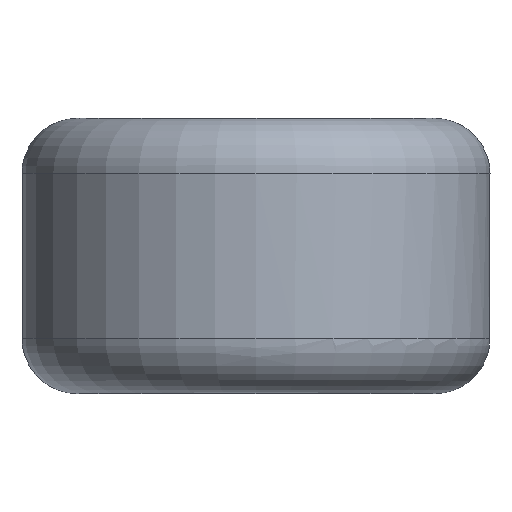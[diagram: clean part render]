
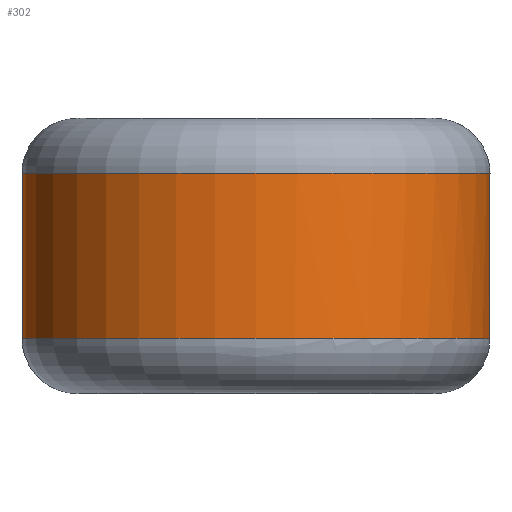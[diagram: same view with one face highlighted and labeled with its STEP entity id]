
A CAD part, top view. The second image highlights one B-rep face of the part: STEP entity #302.
In plain terms, the highlighted cylindrical face has radius 4.25 mm (diameter 8.5 mm), a full revolution.
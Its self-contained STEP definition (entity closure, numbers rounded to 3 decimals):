
#24=B_SPLINE_CURVE_WITH_KNOTS('',3,(#890,#891,#892,#893,#894,#895,#896,
#897,#898,#899),.UNSPECIFIED.,.F.,.F.,(4,1,1,1,1,1,1,4),(-0.224,
-0.192,-0.16,-0.128,-0.096,
-0.048,-0.032,0.),.UNSPECIFIED.);
#26=B_SPLINE_CURVE_WITH_KNOTS('',3,(#961,#962,#963,#964,#965,#966,#967,
#968,#969,#970),.UNSPECIFIED.,.F.,.F.,(4,1,1,1,1,1,1,4),(-0.224,
-0.192,-0.16,-0.128,-0.096,
-0.048,-0.032,0.),.UNSPECIFIED.);
#72=FACE_OUTER_BOUND('',#92,.T.);
#92=EDGE_LOOP('',(#241,#242,#243,#244,#245,#246,#247,#248,#249,#250));
#105=LINE('',#955,#108);
#108=VECTOR('',#407,4.25);
#120=CIRCLE('',#347,4.25);
#121=CIRCLE('',#348,4.25);
#122=CIRCLE('',#349,4.25);
#123=CIRCLE('',#351,4.25);
#124=CIRCLE('',#352,4.25);
#125=CIRCLE('',#353,4.25);
#143=VERTEX_POINT('',#886);
#144=VERTEX_POINT('',#888);
#147=VERTEX_POINT('',#947);
#148=VERTEX_POINT('',#950);
#149=VERTEX_POINT('',#954);
#150=VERTEX_POINT('',#956);
#151=VERTEX_POINT('',#958);
#152=VERTEX_POINT('',#960);
#176=EDGE_CURVE('',#143,#144,#24,.T.);
#181=EDGE_CURVE('',#144,#147,#120,.T.);
#182=EDGE_CURVE('',#148,#143,#121,.T.);
#183=EDGE_CURVE('',#147,#148,#122,.T.);
#184=EDGE_CURVE('',#148,#149,#105,.T.);
#185=EDGE_CURVE('',#149,#150,#123,.T.);
#186=EDGE_CURVE('',#150,#151,#124,.T.);
#187=EDGE_CURVE('',#151,#152,#26,.T.);
#188=EDGE_CURVE('',#152,#149,#125,.T.);
#241=ORIENTED_EDGE('',*,*,#176,.T.);
#242=ORIENTED_EDGE('',*,*,#181,.T.);
#243=ORIENTED_EDGE('',*,*,#183,.T.);
#244=ORIENTED_EDGE('',*,*,#184,.T.);
#245=ORIENTED_EDGE('',*,*,#185,.T.);
#246=ORIENTED_EDGE('',*,*,#186,.T.);
#247=ORIENTED_EDGE('',*,*,#187,.T.);
#248=ORIENTED_EDGE('',*,*,#188,.T.);
#249=ORIENTED_EDGE('',*,*,#184,.F.);
#250=ORIENTED_EDGE('',*,*,#182,.T.);
#292=CYLINDRICAL_SURFACE('',#350,4.25);
#302=ADVANCED_FACE('',(#72),#292,.T.);
#347=AXIS2_PLACEMENT_3D('',#949,#399,#400);
#348=AXIS2_PLACEMENT_3D('',#951,#401,#402);
#349=AXIS2_PLACEMENT_3D('',#952,#403,#404);
#350=AXIS2_PLACEMENT_3D('',#953,#405,#406);
#351=AXIS2_PLACEMENT_3D('',#957,#408,#409);
#352=AXIS2_PLACEMENT_3D('',#959,#410,#411);
#353=AXIS2_PLACEMENT_3D('',#971,#412,#413);
#399=DIRECTION('center_axis',(0.,-1.,0.));
#400=DIRECTION('ref_axis',(-1.,0.,0.));
#401=DIRECTION('center_axis',(0.,-1.,0.));
#402=DIRECTION('ref_axis',(-1.,0.,0.));
#403=DIRECTION('center_axis',(0.,-1.,0.));
#404=DIRECTION('ref_axis',(-1.,0.,0.));
#405=DIRECTION('center_axis',(0.,-1.,0.));
#406=DIRECTION('ref_axis',(1.,0.,0.));
#407=DIRECTION('',(0.,-1.,0.));
#408=DIRECTION('center_axis',(0.,1.,0.));
#409=DIRECTION('ref_axis',(-1.,0.,0.));
#410=DIRECTION('center_axis',(0.,1.,0.));
#411=DIRECTION('ref_axis',(-1.,0.,0.));
#412=DIRECTION('center_axis',(0.,1.,0.));
#413=DIRECTION('ref_axis',(-1.,0.,0.));
#886=CARTESIAN_POINT('',(-3.127,1.5,-2.879));
#888=CARTESIAN_POINT('',(-2.356,1.5,-3.537));
#890=CARTESIAN_POINT('Ctrl Pts',(-3.127,1.5,-2.879));
#891=CARTESIAN_POINT('Ctrl Pts',(-3.155,1.402,-2.848));
#892=CARTESIAN_POINT('Ctrl Pts',(-3.172,1.181,-2.828));
#893=CARTESIAN_POINT('Ctrl Pts',(-3.08,0.879,-2.931));
#894=CARTESIAN_POINT('Ctrl Pts',(-2.886,0.699,-3.125));
#895=CARTESIAN_POINT('Ctrl Pts',(-2.596,0.699,-3.374));
#896=CARTESIAN_POINT('Ctrl Pts',(-2.382,0.927,-3.52));
#897=CARTESIAN_POINT('Ctrl Pts',(-2.304,1.237,-3.571));
#898=CARTESIAN_POINT('Ctrl Pts',(-2.321,1.402,-3.56));
#899=CARTESIAN_POINT('Ctrl Pts',(-2.356,1.5,-3.537));
#947=CARTESIAN_POINT('',(0.,1.5,-4.25));
#949=CARTESIAN_POINT('Origin',(0.,1.5,0.));
#950=CARTESIAN_POINT('',(-4.25,1.5,0.));
#951=CARTESIAN_POINT('Origin',(0.,1.5,0.));
#952=CARTESIAN_POINT('Origin',(0.,1.5,0.));
#953=CARTESIAN_POINT('Origin',(0.,0.,0.));
#954=CARTESIAN_POINT('',(-4.25,-1.5,0.));
#955=CARTESIAN_POINT('',(-4.25,0.,0.));
#956=CARTESIAN_POINT('',(0.,-1.5,4.25));
#957=CARTESIAN_POINT('Origin',(0.,-1.5,0.));
#958=CARTESIAN_POINT('',(3.127,-1.5,-2.879));
#959=CARTESIAN_POINT('Origin',(0.,-1.5,0.));
#960=CARTESIAN_POINT('',(2.356,-1.5,-3.537));
#961=CARTESIAN_POINT('Ctrl Pts',(3.127,-1.5,-2.879));
#962=CARTESIAN_POINT('Ctrl Pts',(3.155,-1.402,-2.848));
#963=CARTESIAN_POINT('Ctrl Pts',(3.172,-1.181,-2.828));
#964=CARTESIAN_POINT('Ctrl Pts',(3.08,-0.879,-2.931));
#965=CARTESIAN_POINT('Ctrl Pts',(2.886,-0.699,-3.125));
#966=CARTESIAN_POINT('Ctrl Pts',(2.596,-0.699,-3.374));
#967=CARTESIAN_POINT('Ctrl Pts',(2.382,-0.927,-3.52));
#968=CARTESIAN_POINT('Ctrl Pts',(2.304,-1.237,-3.571));
#969=CARTESIAN_POINT('Ctrl Pts',(2.321,-1.402,-3.56));
#970=CARTESIAN_POINT('Ctrl Pts',(2.356,-1.5,-3.537));
#971=CARTESIAN_POINT('Origin',(0.,-1.5,0.));
